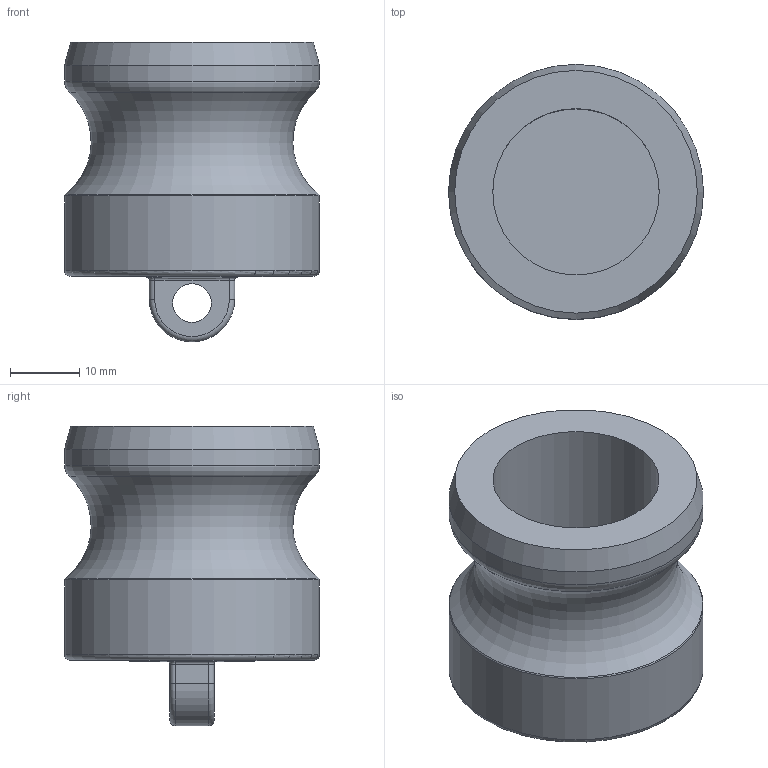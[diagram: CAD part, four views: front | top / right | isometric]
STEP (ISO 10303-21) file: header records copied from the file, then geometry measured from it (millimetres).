
FILE_DESCRIPTION(/* description */ ('Alibre Inc.'),/* implementation_level */ '2;1');
FILE_NAME(/* name */ 'export0',/* time_stamp */ '2016-01-21T17:35:25-05:00',/* author */ (''),/* organization */ (''),/* preprocessor_version */ 'ST-DEVELOPER v14',/* originating_system */ 'Alibre',/* authorisation */ '');
FILE_SCHEMA (('CONFIG_CONTROL_DESIGN'));
Length unit declared in the file: centimetre
Products named in the file (1): ID_1
Bounding box: 36.73 x 36.73 x 43.18 mm (x, y, z)
Volume: 17790.8 mm3; surface area: 8500.5 mm2
Topology: 1 solids, 1 shells, 31 faces, 66 edges, 38 vertices
Faces by surface type: torus 9, cylinder 9, plane 6, bspline 4, cone 2, sphere 1
Full cylindrical faces by diameter (mm): 5.563 x1, 23.978 x1, 36.728 x2
Entity records: 1198 total; most frequent: CARTESIAN_POINT 509, DIRECTION 121, ORIENTED_EDGE 108, AXIS2_PLACEMENT_3D 63, EDGE_CURVE 54, EDGE_LOOP 44, FACE_BOUND 44, VERTEX_POINT 36
